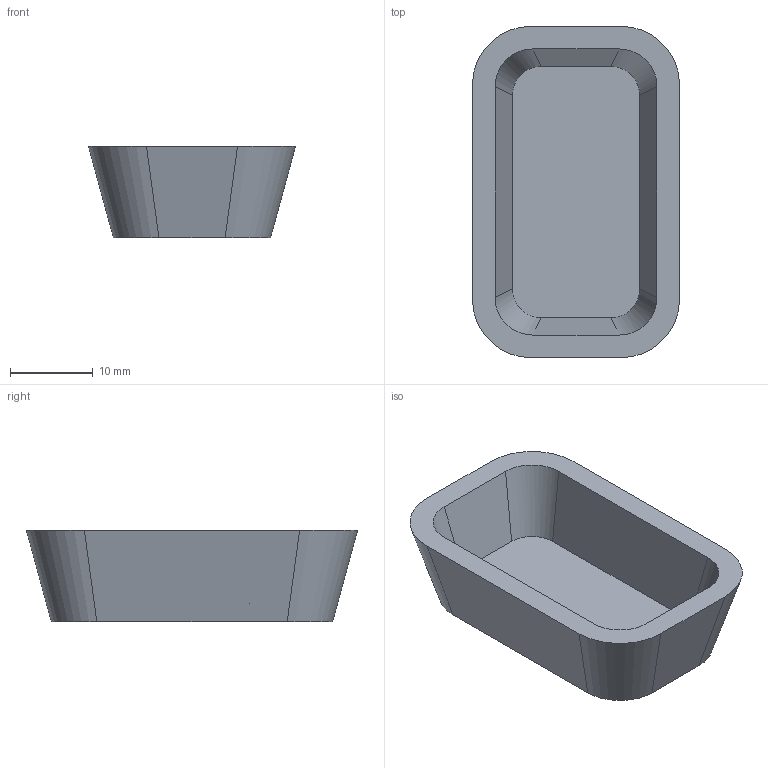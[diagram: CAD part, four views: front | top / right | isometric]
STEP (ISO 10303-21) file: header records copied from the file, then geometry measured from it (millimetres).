
FILE_DESCRIPTION(('Open CASCADE Model'),'2;1');
FILE_NAME('Open CASCADE Shape Model','2026-09-13T15:24:55',('Author'),( 'Open CASCADE'),'Open CASCADE STEP processor 7.9','build123d', 'Unknown');
FILE_SCHEMA(('AUTOMOTIVE_DESIGN { 1 0 10303 214 1 1 1 1 }'));
Length unit declared in the file: millimetre
Products named in the file (2): =>[0:1:1:2]; COMPOUND
Assembly tree (1 placements, depth 2):
  =>[0:1:1:2]
    COMPOUND
Bounding box: 25 x 40 x 11 mm (x, y, z)
Volume: 3730.2 mm3; surface area: 3447.8 mm2
Topology: 1 solids, 1 shells, 19 faces, 48 edges, 32 vertices
Faces by surface type: bspline 16, plane 3
Entity records: 1530 total; most frequent: CARTESIAN_POINT 645, DIRECTION 118, ORIENTED_EDGE 96, PCURVE 96, DEFINITIONAL_REPRESENTATION 96, LINE 72, VECTOR 72, EDGE_CURVE 48
